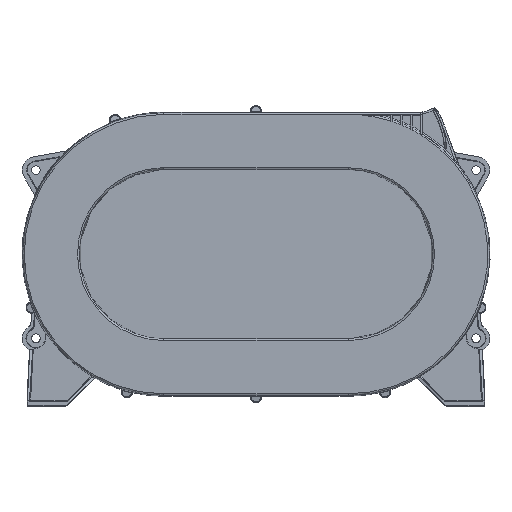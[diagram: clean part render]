
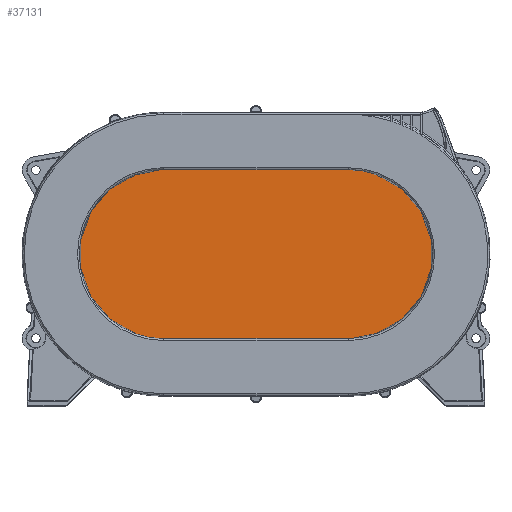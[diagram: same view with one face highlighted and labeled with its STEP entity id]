
A CAD part, top view. The second image highlights one B-rep face of the part: STEP entity #37131.
In plain terms, the highlighted planar face has unit normal (0, 0, 1) as drawn and (0, 0, -1) by its records, which use the part's own axes.
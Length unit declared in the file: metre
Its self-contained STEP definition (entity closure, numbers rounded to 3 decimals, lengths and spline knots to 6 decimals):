
#1019=CARTESIAN_POINT('',(-0.0575,0.,0.0014));
#1020=DIRECTION('',(0.,0.,-1.));
#1021=DIRECTION('',(0.,-1.,0.));
#1022=AXIS2_PLACEMENT_3D('',#1019,#1020,#1021);
#1060=DIRECTION('',(1.,0.,0.));
#1061=VECTOR('',#1060,0.115);
#1062=CARTESIAN_POINT('',(-0.0575,-0.054413,0.0014));
#1063=LINE('',#1062,#1061);
#1090=CARTESIAN_POINT('',(0.0575,0.,0.0014));
#1091=DIRECTION('',(0.,0.,-1.));
#1092=DIRECTION('',(0.,1.,0.));
#1093=AXIS2_PLACEMENT_3D('',#1090,#1091,#1092);
#1103=DIRECTION('',(-1.,0.,0.));
#1104=VECTOR('',#1103,0.115);
#1105=CARTESIAN_POINT('',(0.0575,0.054413,0.0014));
#1106=LINE('',#1105,#1104);
#16904=CARTESIAN_POINT('',(0.0575,0.054413,0.0014));
#16905=CARTESIAN_POINT('',(0.0575,-0.054413,0.0014));
#16906=VERTEX_POINT('',#16904);
#16907=VERTEX_POINT('',#16905);
#16908=CARTESIAN_POINT('',(-0.0575,-0.054413,0.0014));
#16909=VERTEX_POINT('',#16908);
#16910=CARTESIAN_POINT('',(-0.0575,0.054413,0.0014));
#16911=VERTEX_POINT('',#16910);
#37120=CARTESIAN_POINT('',(-0.0575,0.,0.0014));
#37121=DIRECTION('',(0.,0.,-1.));
#37122=DIRECTION('',(0.,1.,0.));
#37123=AXIS2_PLACEMENT_3D('',#37120,#37121,#37122);
#37124=PLANE('',#37123);
#37125=ORIENTED_EDGE('',*,*,#18265,.T.);
#37126=ORIENTED_EDGE('',*,*,#18223,.F.);
#37127=ORIENTED_EDGE('',*,*,#18182,.T.);
#37128=ORIENTED_EDGE('',*,*,#18279,.F.);
#37129=EDGE_LOOP('',(#37125,#37126,#37127,#37128));
#37130=FACE_OUTER_BOUND('',#37129,.F.);
#1023=CIRCLE('',#1022,0.054413);
#1094=CIRCLE('',#1093,0.054413);
#18182=EDGE_CURVE('',#16909,#16911,#1023,.T.);
#18223=EDGE_CURVE('',#16909,#16907,#1063,.T.);
#18265=EDGE_CURVE('',#16906,#16907,#1094,.T.);
#18279=EDGE_CURVE('',#16906,#16911,#1106,.T.);
#37131=ADVANCED_FACE('',(#37130),#37124,.T.);
